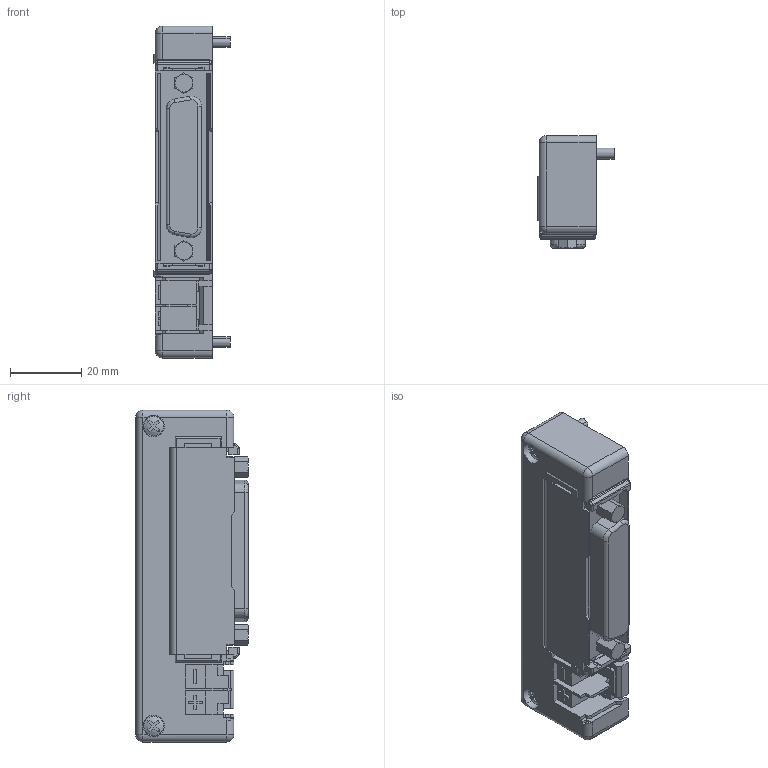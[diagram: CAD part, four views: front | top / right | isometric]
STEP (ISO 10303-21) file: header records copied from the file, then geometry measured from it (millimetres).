
FILE_DESCRIPTION( (''), '2;1');
FILE_NAME ('CVICAD02.288.FZX-D25x_11405.stp','2020-08-31T10:46:31',(''),(''),'spGate 12.6.6','','');
FILE_SCHEMA (('AUTOMOTIVE_DESIGN'));
Length unit declared in the file: millimetre
Products named in the file (3): Assembly; CVICAD02-prt0; CVICAD02-prt1
Assembly tree (2 placements, depth 2):
  Assembly
    CVICAD02-prt0
    CVICAD02-prt1
Bounding box: 21.4 x 31.5 x 93 mm (x, y, z)
Volume: 34570.5 mm3; surface area: 14506.6 mm2
Topology: 2 solids, 2 shells, 397 faces, 1136 edges, 728 vertices
Faces by surface type: plane 292, cylinder 68, bspline 21, sphere 16
Entity records: 21812 total; most frequent: CARTESIAN_POINT 2697, ORIENTED_EDGE 2248, DIRECTION 2040, COLOUR_RGB 1523, PRESENTATION_STYLE_ASSIGNMENT 1523, STYLED_ITEM 1523, EDGE_CURVE 1124, DRAUGHTING_PRE_DEFINED_CURVE_FONT 1124
